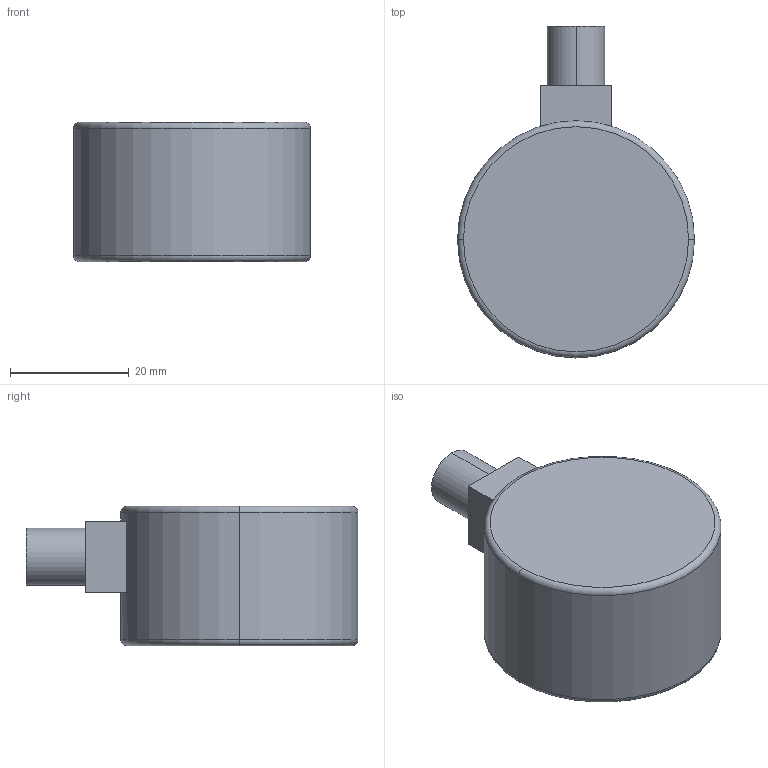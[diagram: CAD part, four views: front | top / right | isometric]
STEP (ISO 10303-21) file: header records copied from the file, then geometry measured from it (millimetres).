
FILE_DESCRIPTION (( 'STEP AP214' ), '1' );
FILE_NAME ('85001201.STEP', '2022-11-22T07:28:44', ( '' ), ( '' ), 'SwSTEP 2.0', 'SolidWorks 2022', '' );
FILE_SCHEMA (( 'AUTOMOTIVE_DESIGN' ));
Length unit declared in the file: millimetre
Products named in the file (1): 85001201
Bounding box: 40 x 56 x 23.5 mm (x, y, z)
Volume: 31124.4 mm3; surface area: 5977.5 mm2
Topology: 1 solids, 1 shells, 16 faces, 32 edges, 20 vertices
Faces by surface type: plane 8, torus 4, cylinder 4
Entity records: 456 total; most frequent: DIRECTION 84, CARTESIAN_POINT 69, ORIENTED_EDGE 64, AXIS2_PLACEMENT_3D 35, EDGE_CURVE 32, VERTEX_POINT 20, CIRCLE 18, EDGE_LOOP 18
